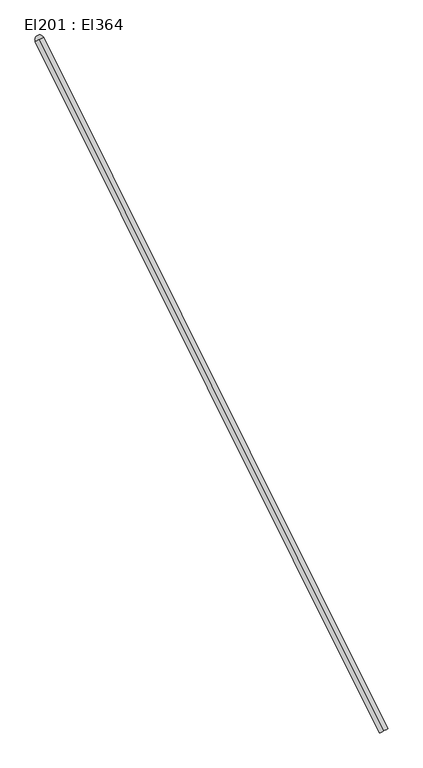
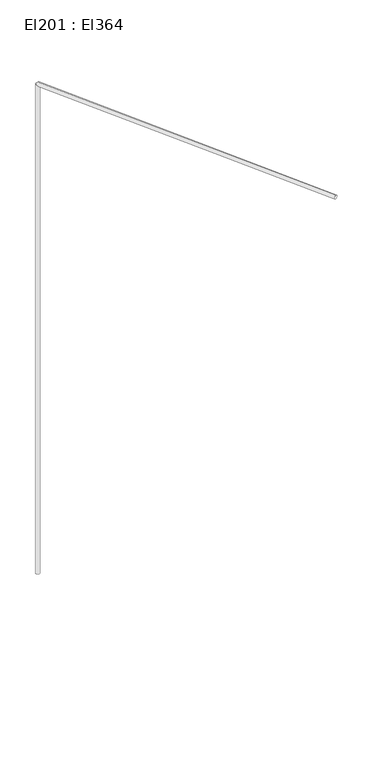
"""IFC4 building model written with IfcOpenShell, lengths in millimetres: cable carrier segment geometry, El201 : El364."""

from ifc_helpers import new_model, si_unit, point, frame, frame_2d, origin, place, context, project, spatial, circle_curve, trimmed, segment, composite_curve, outline, extrude, source, transform, mapped, element, save


def el201_el364_b7d59ef0(model_context):
    return source(origin(), model_context, "Body", "SweptSolid", [
        extrude(outline(composite_curve([segment(trimmed(circle_curve(frame_2d((0.0, -9.5)), 9.5), [point((0.0, -19.0))], [point((0.0, 0.0))], False, "CARTESIAN"), True, "CONTINUOUS"), segment(trimmed(circle_curve(frame_2d((0.0, -9.5)), 9.5), [point((0.0, 0.0))], [point((0.0, -19.0))], False, "CARTESIAN"), True, "CONTINUOUS")], self_intersect=False)), frame((30493.9863819, 8211.9795687, 4459.5), z_axis=(-0.4461040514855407, 0.8949811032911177, 0.0), x_axis=(-0.8949811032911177, -0.4461040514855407, 0.0)), (0.0, 0.0, 1.0), 1568.75),
        extrude(outline(composite_curve([segment(trimmed(circle_curve(frame_2d((29794.1606511, 9615.9811745)), 9.5), [point((29784.6606511, 9615.9811745))], [point((29803.6606511, 9615.9811745))], False, "CARTESIAN"), True, "CONTINUOUS"), segment(trimmed(circle_curve(frame_2d((29794.1606511, 9615.9811745)), 9.5), [point((29803.6606511, 9615.9811745))], [point((29784.6606511, 9615.9811745))], False, "CARTESIAN"), True, "CONTINUOUS")], self_intersect=False)), frame((0.0, 0.0, 1830.0), z_axis=(0.0, 0.0, 1.0), x_axis=(1.0, 0.0, 0.0)), (0.0, 0.0, 1.0), 2620.0),
    ])


if __name__ == "__main__":
    model = new_model("IFC4")
    model_context = context("Model", 3, world=origin())
    ifc_project = project(units=[si_unit("LENGTHUNIT", "METRE", prefix="MILLI")], contexts=[model_context])
    site = spatial("IfcSite", under=ifc_project)
    building = spatial("IfcBuilding", under=site)
    placement = place(None, origin())
    el201_el364_shape = el201_el364_b7d59ef0(model_context)
    element("IfcCableCarrierSegment", 1, ObjectType="El201 : El364", at=placement, inside=building, context=model_context, shape_type="MappedRepresentation", body=[
        mapped(el201_el364_shape, transform((0.0, 0.0, 0.0), x_axis=(1.0, 0.0, 0.0), y_axis=(0.0, 1.0, 0.0), z_axis=(0.0, 0.0, 1.0))),
    ])
    save(model, "model.ifc")
